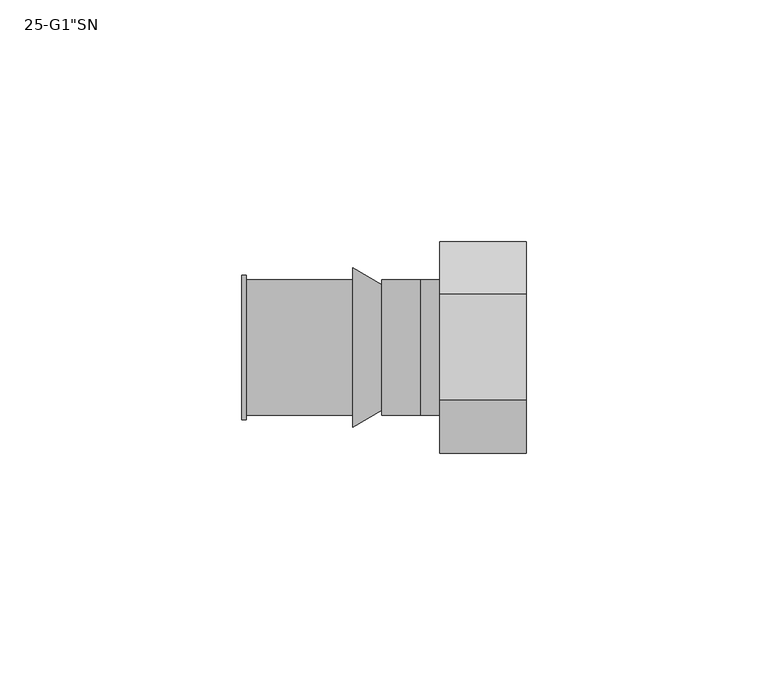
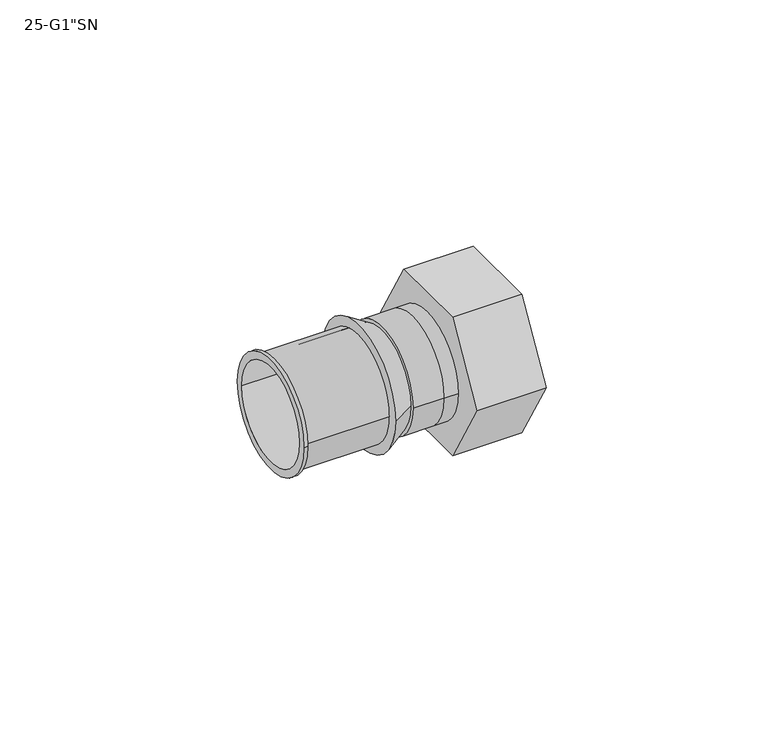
"""IFC4 building model written with IfcOpenShell, lengths in millimetres: pipe fitting geometry."""

from ifc_helpers import new_model, si_unit, frame, origin, place, context, project, spatial, polyline, circle_curve, source, transform, mapped, element, save
from ifc_brep_helpers import plane_surface, cylinder_surface, revolved_surface, advanced_brep


def pipe_fitting_fcc8820a(model_context):
    return source(origin(), model_context, "Body", "AdvancedBrep", [
        advanced_brep(
        [(-10.0, -16.5, 0.0), (-10.0, 16.5, 0.0), (-10.0, 13.0, 0.0), (-10.0, -13.0, 0.0), (-4.0, 13.0, 0.0), (-4.0, -13.0, 0.0)],
        [
            (0, 1, circle_curve(frame((-10.0, 0.0, 0.0), z_axis=(-1.0, 0.0, 0.0), x_axis=(0.0, 1.0, 0.0)), 16.5)),
            (1, 0, circle_curve(frame((-10.0, 0.0, 0.0), z_axis=(-1.0, 0.0, 0.0), x_axis=(0.0, -1.0, 0.0)), 16.5)),
            (2, 3, circle_curve(frame((-10.0, 0.0, 0.0), z_axis=(1.0, 0.0, 0.0), x_axis=(0.0, 1.0, 0.0)), 13.0)),
            (3, 2, circle_curve(frame((-10.0, 0.0, 0.0), z_axis=(1.0, 0.0, 0.0), x_axis=(0.0, 1.0, 0.0)), 13.0)),
            (1, 4),
            (4, 5, circle_curve(frame((-4.0, 0.0, 0.0), z_axis=(-1.0, 0.0, 0.0), x_axis=(0.0, -1.0, 0.0)), 13.0)),
            (5, 0),
            (5, 4, circle_curve(frame((-4.0, 0.0, 0.0), z_axis=(-1.0, 0.0, 0.0), x_axis=(0.0, 1.0, 0.0)), 13.0)),
            (2, 4),
            (5, 3),
        ],
        [
            plane_surface(frame((-10.0, 0.0, 0.0), z_axis=(-1.0, 0.0, 0.0), x_axis=(0.0, 0.0, -1.0))),
            revolved_surface(polyline([(-4.0, -13.000000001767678, 0.0), (-10.0, -16.5, 0.0)]), (18.2857143, 0.0, 0.0), (-1.0, 0.0, 0.0)),
            revolved_surface(polyline([(-4.0, 13.000000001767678, 0.0), (-10.0, 16.5, 0.0)]), (18.2857143, 0.0, 0.0), (-1.0, 0.0, 0.0)),
            revolved_surface(polyline([(-10.0, 13.0, 0.0), (-4.0, 13.0, 0.0)]), (-10.0, 0.0, 0.0), (-1.0, 0.0, 0.0)),
        ],
        [
            (0, [[1, 2], [3, 4]]),
            (1, [[-2, 5, 6, 7]]),
            (2, [[-1, -7, 8, -5]]),
            (3, [[9, -8, 10, -3]]),
            (3, [[-9, -4, -10, -6]]),
        ],
    ),
        advanced_brep(
        [(8.0, -21.9393102, 0.0), (8.0, -10.9696551, 19.0), (8.0, 10.9696551, 19.0), (8.0, 21.9393102, 0.0), (8.0, 10.9696551, -19.0), (8.0, -10.9696551, -19.0), (26.0, -21.9393102, 0.0), (26.0, -10.9696551, -19.0), (26.0, 10.9696551, -19.0), (26.0, 21.9393102, 0.0), (26.0, 10.9696551, 19.0), (26.0, -10.9696551, 19.0), (26.0, -13.5, 0.0), (26.0, 13.5, 0.0), (16.0, 13.5, 0.0), (16.0, -13.5, 0.0)],
        [
            (0, 1),
            (1, 2),
            (2, 3),
            (3, 4),
            (4, 5),
            (5, 0),
            (6, 7),
            (7, 8),
            (8, 9),
            (9, 10),
            (10, 11),
            (11, 6),
            (12, 13, circle_curve(frame((26.0, 0.0, 0.0), z_axis=(-1.0, 0.0, 0.0), x_axis=(0.0, -1.0, 0.0)), 13.5)),
            (13, 12, circle_curve(frame((26.0, 0.0, 0.0), z_axis=(-1.0, 0.0, 0.0), x_axis=(0.0, -1.0, 0.0)), 13.5)),
            (0, 6),
            (11, 1),
            (10, 2),
            (9, 3),
            (8, 4),
            (7, 5),
            (14, 15, circle_curve(frame((16.0, 0.0, 0.0), z_axis=(1.0, 0.0, 0.0), x_axis=(0.0, -1.0, 0.0)), 13.5)),
            (15, 14, circle_curve(frame((16.0, 0.0, 0.0), z_axis=(1.0, 0.0, 0.0), x_axis=(0.0, -1.0, 0.0)), 13.5)),
            (14, 13),
            (12, 15),
        ],
        [
            plane_surface(frame((8.0, 0.0, 0.0), z_axis=(-1.0, 0.0, 0.0), x_axis=(0.0, 0.0, 1.0))),
            plane_surface(frame((26.0, 0.0, 0.0), z_axis=(1.0, 0.0, 0.0), x_axis=(0.0, 0.0, 1.0))),
            plane_surface(frame((8.0, -21.9393102, 0.0), z_axis=(0.0, -0.8660254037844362, 0.5000000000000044), x_axis=(1.0, 0.0, 0.0))),
            plane_surface(frame((8.0, -10.9696551, 19.0), z_axis=(0.0, 0.0, 1.0), x_axis=(1.0, 0.0, 0.0))),
            plane_surface(frame((8.0, 10.9696551, 19.0), z_axis=(0.0, 0.8660254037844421, 0.499999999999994), x_axis=(1.0, 0.0, 0.0))),
            plane_surface(frame((8.0, 21.9393102, 0.0), z_axis=(0.0, 0.8660254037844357, -0.5000000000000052), x_axis=(1.0, 0.0, 0.0))),
            plane_surface(frame((8.0, 10.9696551, -19.0), z_axis=(0.0, 0.0, -1.0), x_axis=(1.0, 0.0, 0.0))),
            plane_surface(frame((8.0, -10.9696551, -19.0), z_axis=(0.0, -0.8660254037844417, -0.49999999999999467), x_axis=(1.0, 0.0, 0.0))),
            plane_surface(frame((16.0, 0.0, 0.0), z_axis=(1.0, 0.0, 0.0), x_axis=(0.0, 0.0, 1.0))),
            revolved_surface(polyline([(26.0, -13.5, 0.0), (16.0, -13.5, 0.0)]), (26.0, 0.0, 0.0), (1.0, 0.0, 0.0)),
        ],
        [
            (0, [[1, 2, 3, 4, 5, 6]]),
            (1, [[7, 8, 9, 10, 11, 12], [13, 14]]),
            (2, [[-1, 15, -12, 16]]),
            (3, [[-2, -16, -11, 17]]),
            (4, [[-3, -17, -10, 18]]),
            (5, [[-4, -18, -9, 19]]),
            (6, [[-5, -19, -8, 20]]),
            (7, [[-6, -20, -7, -15]]),
            (8, [[21, 22]]),
            (9, [[-21, 23, -13, 24]]),
            (9, [[-22, -24, -14, -23]]),
        ],
    ),
        advanced_brep(
        [(-4.0, -14.0, 0.0), (-4.0, 14.0, 0.0), (4.0, 14.0, 0.0), (4.0, -14.0, 0.0), (8.0, -14.0, 0.0), (8.0, 14.0, 0.0)],
        [
            (0, 1, circle_curve(frame((-4.0, 0.0, 0.0), z_axis=(-1.0, 0.0, 0.0), x_axis=(0.0, 1.0, 0.0)), 14.0)),
            (1, 0, circle_curve(frame((-4.0, 0.0, 0.0), z_axis=(-1.0, 0.0, 0.0), x_axis=(0.0, 1.0, 0.0)), 14.0)),
            (1, 2),
            (2, 3, circle_curve(frame((4.0, 0.0, 0.0), z_axis=(-1.0, 0.0, 0.0), x_axis=(0.0, 1.0, 0.0)), 14.0)),
            (3, 0),
            (3, 2, circle_curve(frame((4.0, 0.0, 0.0), z_axis=(-1.0, 0.0, 0.0), x_axis=(0.0, 1.0, 0.0)), 14.0)),
            (4, 5, circle_curve(frame((8.0, 0.0, 0.0), z_axis=(1.0, 0.0, 0.0), x_axis=(0.0, 1.0, 0.0)), 14.0)),
            (5, 4, circle_curve(frame((8.0, 0.0, 0.0), z_axis=(1.0, 0.0, 0.0), x_axis=(0.0, 1.0, 0.0)), 14.0)),
            (5, 2),
            (3, 4),
        ],
        [
            plane_surface(frame((-4.0, 0.0, 0.0), z_axis=(-1.0, 0.0, 0.0), x_axis=(0.0, 0.0, 1.0))),
            cylinder_surface(frame((-4.0, 0.0, 0.0), z_axis=(-1.0, 0.0, 0.0), x_axis=(0.0, 1.0, 0.0)), 14.0),
            plane_surface(frame((8.0, 0.0, 0.0), z_axis=(1.0, 0.0, 0.0), x_axis=(0.0, 0.0, 1.0))),
            cylinder_surface(frame((4.0, 0.0, 0.0), z_axis=(-1.0, 0.0, 0.0), x_axis=(0.0, 1.0, 0.0)), 14.0),
        ],
        [
            (0, [[1, 2]]),
            (1, [[-2, 3, 4, 5]]),
            (1, [[-1, -5, 6, -3]]),
            (2, [[7, 8]]),
            (3, [[-8, 9, -6, 10]]),
            (3, [[-7, -10, -4, -9]]),
        ],
    ),
        advanced_brep(
        [(-33.0, -15.0, 0.0), (-33.0, 15.0, 0.0), (-33.0, -13.0, 0.0), (-33.0, 13.0, 0.0), (-10.0, -14.0, 0.0), (-10.0, 14.0, 0.0), (-10.0, -13.0, 0.0), (-10.0, 13.0, 0.0), (-32.0, 14.0, 0.0), (-32.0, -14.0, 0.0), (-32.0, -13.0, 0.0), (-32.0, 13.0, 0.0), (-32.0, -15.0, 0.0), (-32.0, 15.0, 0.0)],
        [
            (0, 1, circle_curve(frame((-33.0, 0.0, 0.0), z_axis=(-1.0, 0.0, 0.0), x_axis=(0.0, 1.0, 0.0)), 15.0)),
            (1, 0, circle_curve(frame((-33.0, 0.0, 0.0), z_axis=(-1.0, 0.0, 0.0), x_axis=(0.0, 1.0, 0.0)), 15.0)),
            (2, 3, circle_curve(frame((-33.0, 0.0, 0.0), z_axis=(1.0, 0.0, 0.0), x_axis=(0.0, 1.0, 0.0)), 13.0)),
            (3, 2, circle_curve(frame((-33.0, 0.0, 0.0), z_axis=(1.0, 0.0, 0.0), x_axis=(0.0, 1.0, 0.0)), 13.0)),
            (4, 5, circle_curve(frame((-10.0, 0.0, 0.0), z_axis=(1.0, 0.0, 0.0), x_axis=(0.0, 1.0, 0.0)), 14.0)),
            (5, 4, circle_curve(frame((-10.0, 0.0, 0.0), z_axis=(1.0, 0.0, 0.0), x_axis=(0.0, 1.0, 0.0)), 14.0)),
            (6, 7, circle_curve(frame((-10.0, 0.0, 0.0), z_axis=(-1.0, 0.0, 0.0), x_axis=(0.0, 1.0, 0.0)), 13.0)),
            (7, 6, circle_curve(frame((-10.0, 0.0, 0.0), z_axis=(-1.0, 0.0, 0.0), x_axis=(0.0, 1.0, 0.0)), 13.0)),
            (5, 8),
            (8, 9, circle_curve(frame((-32.0, 0.0, 0.0), z_axis=(1.0, 0.0, 0.0), x_axis=(0.0, 1.0, 0.0)), 14.0)),
            (9, 4),
            (9, 8, circle_curve(frame((-32.0, 0.0, 0.0), z_axis=(1.0, 0.0, 0.0), x_axis=(0.0, 1.0, 0.0)), 14.0)),
            (2, 10),
            (10, 6),
            (7, 11),
            (11, 3),
            (12, 13, circle_curve(frame((-32.0, 0.0, 0.0), z_axis=(1.0, 0.0, 0.0), x_axis=(0.0, 1.0, 0.0)), 15.0)),
            (13, 12, circle_curve(frame((-32.0, 0.0, 0.0), z_axis=(1.0, 0.0, 0.0), x_axis=(0.0, 1.0, 0.0)), 15.0)),
            (0, 12),
            (13, 1),
        ],
        [
            plane_surface(frame((-33.0, 0.0, 0.0), z_axis=(-1.0, 0.0, 0.0), x_axis=(0.0, 0.0, 1.0))),
            plane_surface(frame((-10.0, 0.0, 0.0), z_axis=(1.0, 0.0, 0.0), x_axis=(0.0, 0.0, 1.0))),
            cylinder_surface(frame((-33.0, 0.0, 0.0), z_axis=(-1.0, 0.0, 0.0), x_axis=(0.0, 1.0, 0.0)), 14.0),
            revolved_surface(polyline([(-10.0, 13.0, 0.0), (-33.0, 13.0, 0.0)]), (-33.0, 0.0, 0.0), (1.0, 0.0, 0.0)),
            plane_surface(frame((-32.0, 0.0, 0.0), z_axis=(1.0, 0.0, 0.0), x_axis=(0.0, 0.0, 1.0))),
            cylinder_surface(frame((-33.0, 0.0, 0.0), z_axis=(-1.0, 0.0, 0.0), x_axis=(0.0, 1.0, 0.0)), 15.0),
        ],
        [
            (0, [[1, 2], [3, 4]]),
            (1, [[5, 6], [7, 8]]),
            (2, [[-6, 9, 10, 11]]),
            (2, [[-5, -11, 12, -9]]),
            (3, [[-3, 13, 14, -8, 15, 16]]),
            (3, [[-4, -16, -15, -7, -14, -13]]),
            (4, [[17, 18], [-10, -12]]),
            (5, [[-1, 19, -18, 20]]),
            (5, [[-2, -20, -17, -19]]),
        ],
    ),
    ])


if __name__ == "__main__":
    model = new_model("IFC4")
    model_context = context("Model", 3, world=origin())
    ifc_project = project(units=[si_unit("LENGTHUNIT", "METRE", prefix="MILLI")], contexts=[model_context])
    site = spatial("IfcSite", under=ifc_project)
    building = spatial("IfcBuilding", under=site)
    placement = place(None, origin())
    pipe_fitting_shape = pipe_fitting_fcc8820a(model_context)
    element("IfcPipeFitting", 1, ObjectType="SuperPipe_AdapterSN_MAX_G : 25-G1\"SN", at=placement, inside=building, context=model_context, shape_type="MappedRepresentation", body=[
        mapped(pipe_fitting_shape, transform((0.0, 0.0, 0.0), x_axis=(1.0, 0.0, 0.0), y_axis=(0.0, 1.0, 0.0), z_axis=(0.0, 0.0, 1.0))),
    ])
    save(model, "model.ifc")
